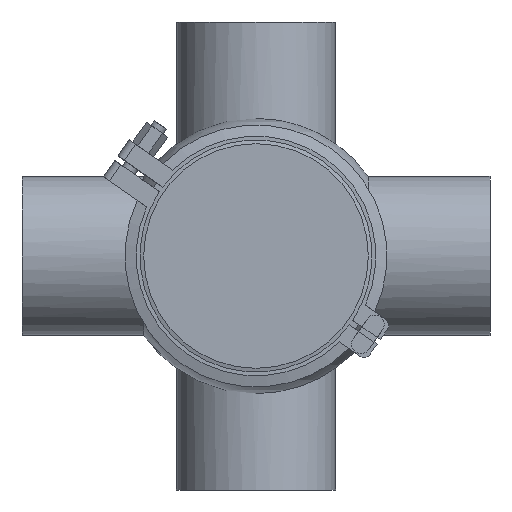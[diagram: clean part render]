
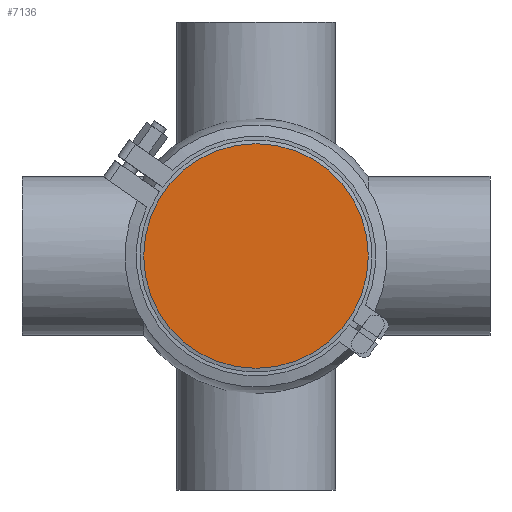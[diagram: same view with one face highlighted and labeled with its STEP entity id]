
A CAD part, front view. The second image highlights one B-rep face of the part: STEP entity #7136.
In plain terms, the highlighted planar face has unit normal (0, -1, 0).
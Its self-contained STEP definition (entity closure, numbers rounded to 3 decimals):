
#499 = DIRECTION ( 'NONE',  ( 0., 0., 1. ) ) ;
#611 = DIRECTION ( 'NONE',  ( 0., 1., 0. ) ) ;
#1573 = DIRECTION ( 'NONE',  ( 0., 0., -1. ) ) ;
#3331 = AXIS2_PLACEMENT_3D ( 'NONE', #8497, #611, #499 ) ;
#3572 = VERTEX_POINT ( 'NONE', #16653 ) ;
#6475 = FACE_OUTER_BOUND ( 'NONE', #14728, .T. ) ;
#6788 = CARTESIAN_POINT ( 'NONE',  ( -60., 0., 0. ) ) ;
#7136 = ADVANCED_FACE ( 'NONE', ( #6475 ), #8182, .T. ) ;
#8182 = PLANE ( 'NONE',  #16398 ) ;
#8497 = CARTESIAN_POINT ( 'NONE',  ( 0., 0., 0. ) ) ;
#13623 = CIRCLE ( 'NONE', #3331, 60. ) ;
#14728 = EDGE_LOOP ( 'NONE', ( #18258 ) ) ;
#16398 = AXIS2_PLACEMENT_3D ( 'NONE', #6788, #19359, #1573 ) ;
#16653 = CARTESIAN_POINT ( 'NONE',  ( 0., 0., 60. ) ) ;
#18010 = EDGE_CURVE ( 'NONE', #3572, #3572, #13623, .T. ) ;
#18258 = ORIENTED_EDGE ( 'NONE', *, *, #18010, .F. ) ;
#19359 = DIRECTION ( 'NONE',  ( 0., -1., 0. ) ) ;
